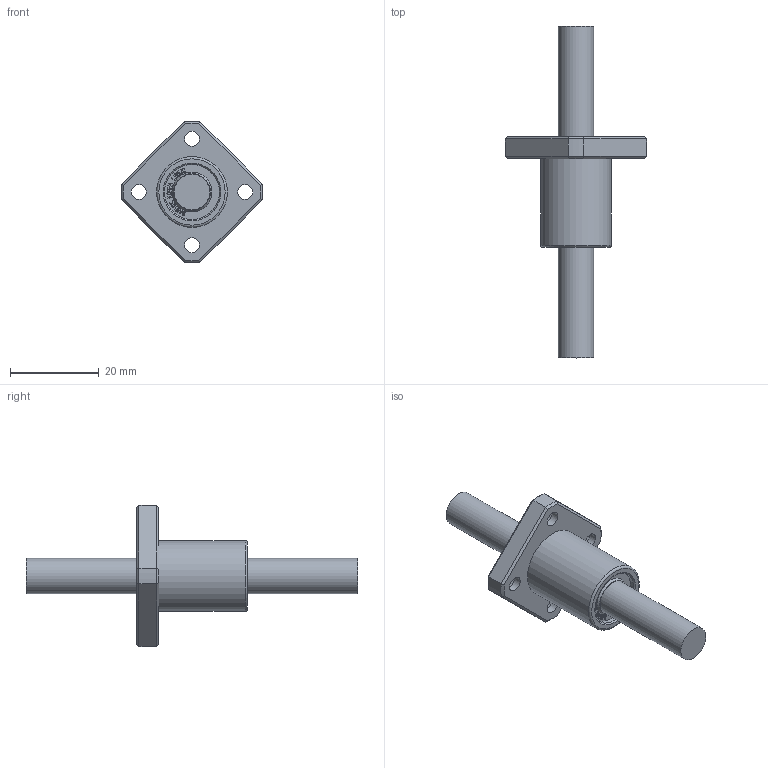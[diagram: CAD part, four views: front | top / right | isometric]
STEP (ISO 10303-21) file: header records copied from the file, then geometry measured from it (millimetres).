
FILE_DESCRIPTION(/* description */ (''),/* implementation_level */ '2;1');
FILE_NAME(/* name */ 'W:\(01) 2024년 홈페이지 CAD파일 최신화\LMEK\IPT\LMEK08UU.stp',/* time_stamp */ '2025-01-25T10:45:50+09:00',/* author */ ('서우현'),/* organization */ (''),/* preprocessor_version */ 'ST-DEVELOPER v17.2',/* originating_system */ 'Autodesk Inventor 2019',/* authorisation */ '');
FILE_SCHEMA (('AUTOMOTIVE_DESIGN { 1 0 10303 214 3 1 1 }'));
Length unit declared in the file: millimetre
Products named in the file (1): LM5
Bounding box: 31.98 x 75 x 31.98 mm (x, y, z)
Volume: 8904.6 mm3; surface area: 4354.9 mm2
Topology: 1 solids, 1 shells, 844 faces, 2366 edges, 1580 vertices
Faces by surface type: bspline 580, plane 232, cylinder 18, cone 12, torus 2
Full cylindrical faces by diameter (mm): 3.4 x4, 6.5 x4, 8 x2, 12.4 x2, 16 x2
Entity records: 29041 total; most frequent: CARTESIAN_POINT 10811, ORIENTED_EDGE 4732, EDGE_CURVE 2366, DIRECTION 1802, VERTEX_POINT 1580, B_SPLINE_CURVE_WITH_KNOTS 1160, LINE 1108, VECTOR 1108
